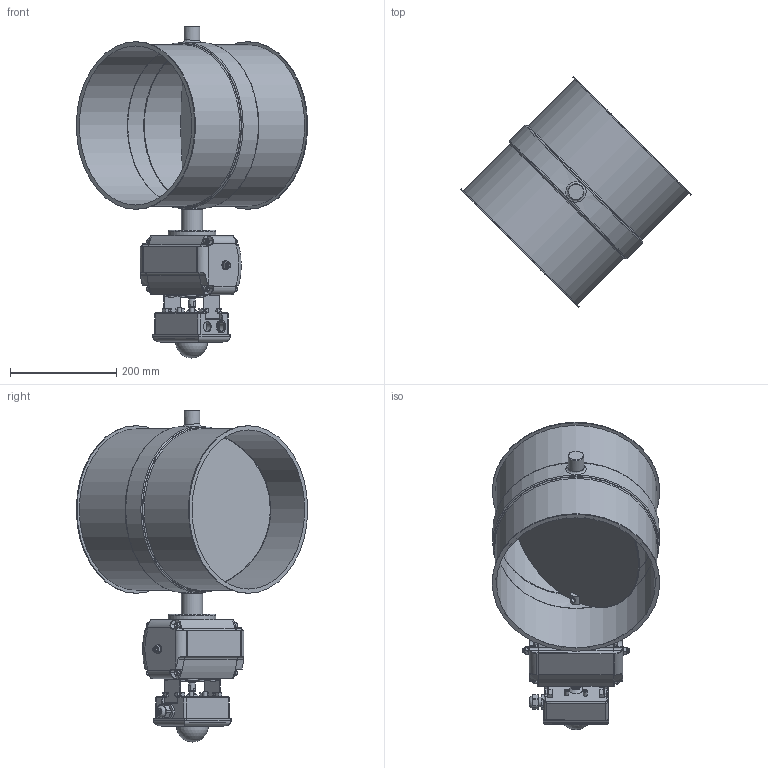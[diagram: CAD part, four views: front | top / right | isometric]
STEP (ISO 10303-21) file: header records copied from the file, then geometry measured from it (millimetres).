
FILE_DESCRIPTION((''),'2;1');
FILE_NAME('U:\Wolfgang\Marcel-3D\fertig\Kapitel 8\3021212.stp','2012-01-13T11:17:31',('iwienholt'),(''),'Autodesk Inventor 2010','Autodesk Inventor 2010','');
FILE_SCHEMA(('AUTOMOTIVE_DESIGN { 1 0 10303 214 1 1 1 1 }'));
Length unit declared in the file: millimetre
Products named in the file (21): 3021212; Bolzen D20; Scheibe300b; 3021210-1; Antrieb Flowserve D20; Pneumatischer SchwenkantriebS85D-2; Body; roter Verschluss; A1 Schwenkantrieb S85D; Body S085D; DIN EN ISO 4018 M5x10; DIN 125-1 A A 13; End Cap L85; End Cap R85; DIN 125-1 A A 8,4; DIN 916 M8  x  40; DIN 555 - ersetzt durch DIN EN 24034 M8; DIN EN ISO 4762 M6 x 12; Halterung; Deckel2; BuchseD20 90-50
Assembly tree (40 placements, depth 5):
  3021212
    Bolzen D20  x2
    Scheibe300b
    3021210-1
    Antrieb Flowserve D20
      Pneumatischer SchwenkantriebS85D-2
        Body
        roter Verschluss
        A1 Schwenkantrieb S85D
          Body S085D
          DIN EN ISO 4018 M5x10  x4
          DIN 125-1 A A 13  x2
          End Cap L85
          End Cap R85
          DIN 125-1 A A 8,4  x2
          DIN 916 M8  x  40  x2
          DIN 555 - ersetzt durch DIN EN 24034 M8  x2
          DIN EN ISO 4762 M6 x 12  x8
        Halterung  x2
        DIN EN ISO 4018 M5x10  x4
        Deckel2
      BuchseD20 90-50
Bounding box: 434.87 x 434.88 x 624 mm (x, y, z)
Volume: 3321188.8 mm3; surface area: 1116373.2 mm2
Topology: 39 solids, 39 shells, 902 faces, 2091 edges, 1324 vertices
Faces by surface type: plane 448, cylinder 203, bspline 104, cone 104, torus 42, sphere 1
Full cylindrical faces by diameter (mm): 3.242 x4, 5 x10, 6 x12, 6.647 x4, 8 x6, 8.376 x1, 8.4 x2, 10 x10, 11.9 x2, 12.5 x1, 13 x5, 14 x1, 16 x2, 17 x1, 17.79 x2, 18 x3, 20 x6, 20.5 x1, 22 x1, 24 x3, 28.5 x1, 30 x3, 40 x3, 90 x1, 299 x3, 300 x1, 303 x2, 308 x1, 309 x1, 313 x1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
Entity records: 19753 total; most frequent: CARTESIAN_POINT 5770, DIRECTION 2784, ORIENTED_EDGE 2474, EDGE_CURVE 1237, AXIS2_PLACEMENT_3D 1085, EDGE_LOOP 870, VERTEX_POINT 869, VECTOR 614
